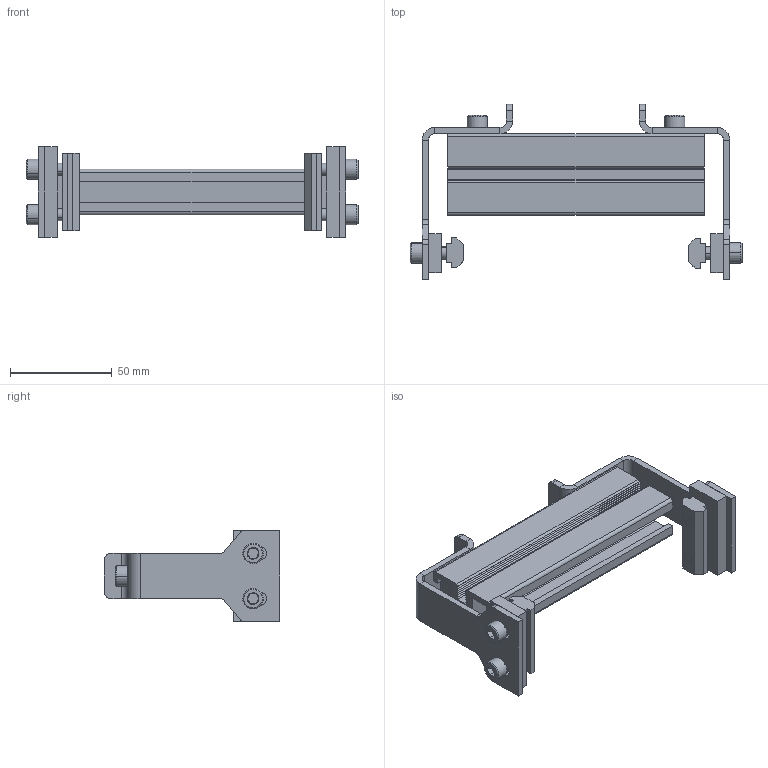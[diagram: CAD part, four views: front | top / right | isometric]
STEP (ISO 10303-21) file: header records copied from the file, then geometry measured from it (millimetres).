
FILE_DESCRIPTION((''),'2;1');
FILE_NAME('207133-05_ASM','2016-08-24T',('adam.dellomodarme'),(''),'PRO/ENGINEER BY PARAMETRIC TECHNOLOGY CORPORATION, 2012420','PRO/ENGINEER BY PARAMETRIC TECHNOLOGY CORPORATION, 2012420','');
FILE_SCHEMA(('CONFIG_CONTROL_DESIGN'));
Length unit declared in the file: inch
Products named in the file (9): 9206XXM_920620M; 639971M_CAE; 202444; 201937; 200626M; 9206XXM_920614M; 207135-WW_207135-05; ASM0003_ASM; 207133-05_ASM
Assembly tree (16 placements, depth 3):
  207133-05_ASM
    ASM0003_ASM
      9206XXM_920620M  x4
      639971M_CAE  x2
      202444  x2
      201937  x2
      200626M  x2
      9206XXM_920614M  x2
      207135-WW_207135-05
Bounding box: 162.77 x 85.8 x 44.45 mm (x, y, z)
Volume: 95401.8 mm3; surface area: 61825.5 mm2
Topology: 15 solids, 15 shells, 428 faces, 1050 edges, 664 vertices
Faces by surface type: plane 258, cylinder 104, cone 66
Entity records: 7561 total; most frequent: CARTESIAN_POINT 1396, DIRECTION 1272, ORIENTED_EDGE 1216, EDGE_CURVE 608, VECTOR 460, LINE 460, AXIS2_PLACEMENT_3D 406, VERTEX_POINT 392
